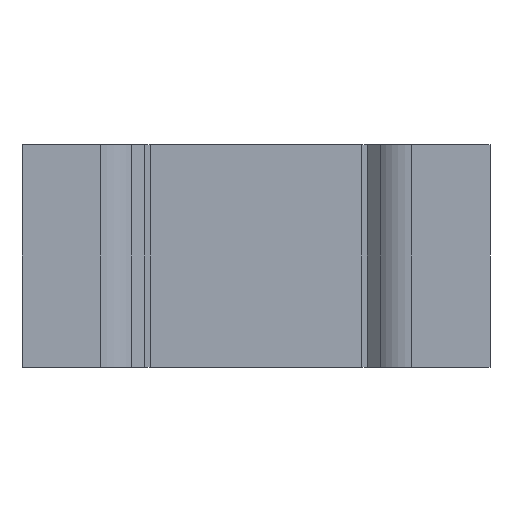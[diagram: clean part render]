
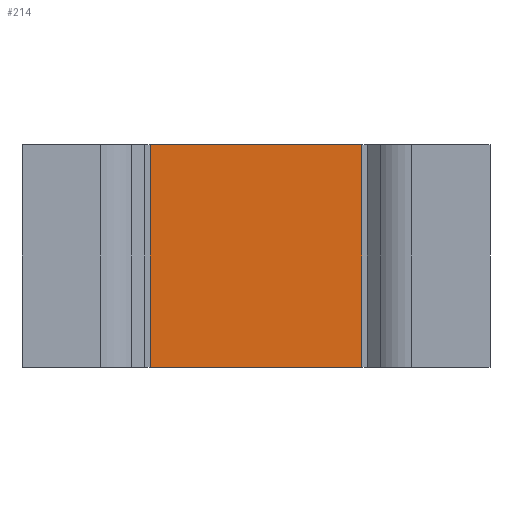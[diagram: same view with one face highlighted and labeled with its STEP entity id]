
A CAD part, front view. The second image highlights one B-rep face of the part: STEP entity #214.
In plain terms, the highlighted planar face has unit normal (0, -1, 0).
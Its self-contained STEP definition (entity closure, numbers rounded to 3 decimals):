
#114 = EDGE_CURVE ( 'NONE', #3346, #6258, #5110, .T. ) ;
#214 = ADVANCED_FACE ( 'NONE', ( #3709 ), #236, .F. ) ;
#218 = CARTESIAN_POINT ( 'NONE',  ( 1.425, 0., 1.5 ) ) ;
#236 = PLANE ( 'NONE',  #2297 ) ;
#902 = ORIENTED_EDGE ( 'NONE', *, *, #4531, .F. ) ;
#1047 = CARTESIAN_POINT ( 'NONE',  ( -1.425, 0., -1.5 ) ) ;
#1122 = DIRECTION ( 'NONE',  ( 0., 0., 1. ) ) ;
#1404 = DIRECTION ( 'NONE',  ( 1., 0., 0. ) ) ;
#1467 = VECTOR ( 'NONE', #4188, 1000. ) ;
#1504 = DIRECTION ( 'NONE',  ( 0., 0., -1. ) ) ;
#1630 = EDGE_LOOP ( 'NONE', ( #3583, #902, #4419, #5924 ) ) ;
#2264 = VECTOR ( 'NONE', #1404, 1000. ) ;
#2269 = CARTESIAN_POINT ( 'NONE',  ( 1.425, 0., 1.5 ) ) ;
#2297 = AXIS2_PLACEMENT_3D ( 'NONE', #5677, #6045, #1122 ) ;
#2476 = LINE ( 'NONE', #2546, #4110 ) ;
#2546 = CARTESIAN_POINT ( 'NONE',  ( -1.425, 0., 1.5 ) ) ;
#3111 = CARTESIAN_POINT ( 'NONE',  ( 1.425, 0., -1.5 ) ) ;
#3346 = VERTEX_POINT ( 'NONE', #3355 ) ;
#3350 = EDGE_CURVE ( 'NONE', #5485, #4891, #4285, .T. ) ;
#3355 = CARTESIAN_POINT ( 'NONE',  ( -1.425, 0., 1.5 ) ) ;
#3583 = ORIENTED_EDGE ( 'NONE', *, *, #3350, .T. ) ;
#3709 = FACE_OUTER_BOUND ( 'NONE', #1630, .T. ) ;
#4049 = VECTOR ( 'NONE', #4664, 1000. ) ;
#4110 = VECTOR ( 'NONE', #1504, 1000. ) ;
#4188 = DIRECTION ( 'NONE',  ( 1., 0., 0. ) ) ;
#4285 = LINE ( 'NONE', #5841, #2264 ) ;
#4419 = ORIENTED_EDGE ( 'NONE', *, *, #114, .F. ) ;
#4531 = EDGE_CURVE ( 'NONE', #6258, #4891, #5725, .T. ) ;
#4664 = DIRECTION ( 'NONE',  ( 0., 0., -1. ) ) ;
#4891 = VERTEX_POINT ( 'NONE', #3111 ) ;
#5110 = LINE ( 'NONE', #5198, #1467 ) ;
#5198 = CARTESIAN_POINT ( 'NONE',  ( -1.425, 0., 1.5 ) ) ;
#5396 = EDGE_CURVE ( 'NONE', #3346, #5485, #2476, .T. ) ;
#5485 = VERTEX_POINT ( 'NONE', #1047 ) ;
#5677 = CARTESIAN_POINT ( 'NONE',  ( -1.425, 0., 1.5 ) ) ;
#5725 = LINE ( 'NONE', #2269, #4049 ) ;
#5841 = CARTESIAN_POINT ( 'NONE',  ( -1.425, 0., -1.5 ) ) ;
#5924 = ORIENTED_EDGE ( 'NONE', *, *, #5396, .T. ) ;
#6045 = DIRECTION ( 'NONE',  ( 0., 1., 0. ) ) ;
#6258 = VERTEX_POINT ( 'NONE', #218 ) ;
